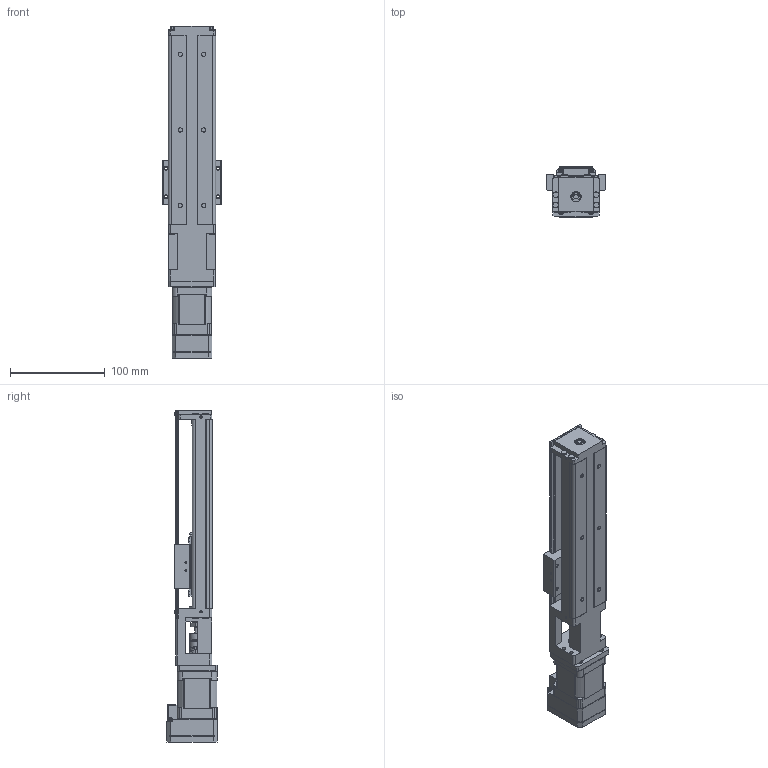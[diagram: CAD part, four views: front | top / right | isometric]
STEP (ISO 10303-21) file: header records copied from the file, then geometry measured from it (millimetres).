
FILE_DESCRIPTION (( 'STEP AP214' ), '1' );
FILE_NAME ('SPA26-A-02-110-S-10A0-17L30-X.STEP', '2015-01-06T17:56:54', ( '' ), ( '' ), 'SwSTEP 2.0', 'SolidWorks 2015', '' );
FILE_SCHEMA (( 'AUTOMOTIVE_DESIGN' ));
Length unit declared in the file: millimetre
Products named in the file (5): SPA26-A-02-110-S-10A0; RCLA16C-5-5; PA26-NEMA17-MountingBracket; CM1-X-17L30-NE-RENDER; SPA26-A-02-110-S-10A0-17L30-X
Assembly tree (4 placements, depth 2):
  SPA26-A-02-110-S-10A0-17L30-X
    CM1-X-17L30-NE-RENDER
    PA26-NEMA17-MountingBracket
    RCLA16C-5-5
    SPA26-A-02-110-S-10A0
Bounding box: 62 x 53 x 351.3 mm (x, y, z)
Volume: 402181.4 mm3; surface area: 140680.8 mm2
Topology: 5 solids, 11 shells, 1966 faces, 5369 edges, 3473 vertices
Faces by surface type: plane 1193, cylinder 580, cone 155, bspline 20, torus 16, sphere 2
Entity records: 77485 total; most frequent: CARTESIAN_POINT 12071, ORIENTED_EDGE 10568, DIRECTION 10516, EDGE_CURVE 5323, LINE 3784, VECTOR 3784, VERTEX_POINT 3473, AXIS2_PLACEMENT_3D 3366
